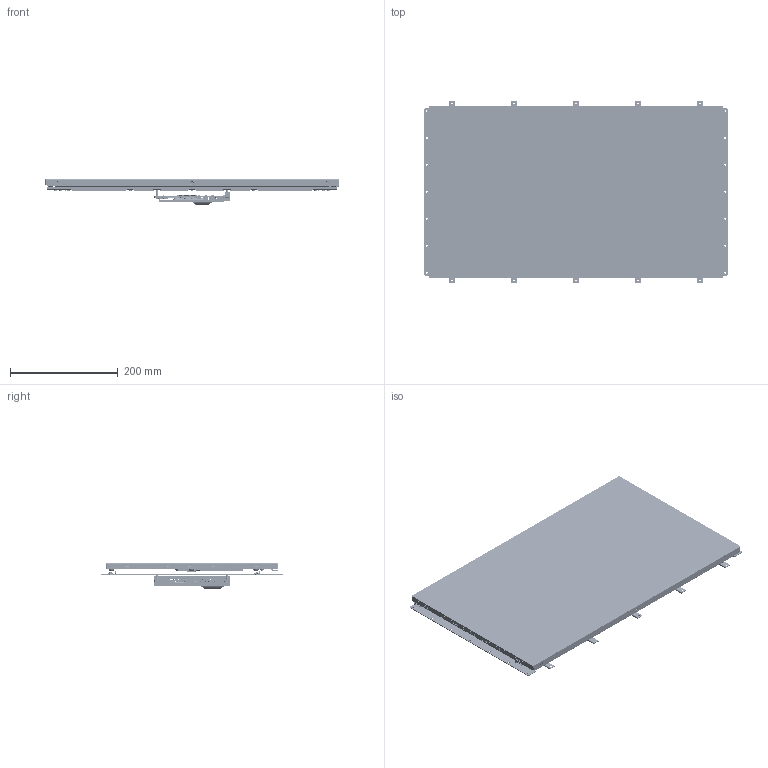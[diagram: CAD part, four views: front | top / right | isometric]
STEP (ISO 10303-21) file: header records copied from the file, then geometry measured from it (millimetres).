
FILE_DESCRIPTION((''),'2;1');
FILE_NAME('00_BCX11_236_ASSY_ASM_ASM','2015-11-02T',('jimmy_tseng'),(''),'CREO PARAMETRIC BY PTC INC, 2015080','CREO PARAMETRIC BY PTC INC, 2015080','');
FILE_SCHEMA(('CONFIG_CONTROL_DESIGN'));
Products named in the file (535): M236HJK-L5BMSBR-424_1; M236HJK-L5BMSBR-423_1; M236HJK-L5BMSBR-422_1; M236HJK-L5BMSBR-421_1; M236HJK-L5BMSBR-420_2; M236HJK-L5BMSBR-419_2; M236HJK-L5BMSBR-418_2; M236HJK-L5BMSBR-417_1; M236HJK-L5BMSBR-416_1; M236HJK-L5BMSBR-415_1; M236HJK-L5BMSBR-414_1; M236HJK-L5BMSBR-413_1; M236HJK-L5BMSBR-412_1; M236HJK-L5BMSBR-411_1; M236HJK-L5BMSBR-410_1; M236HJK-L5BMSBR-409_1; M236HJK-L5BMSBR-408_1; M236HJK-L5BMSBR-407_1; M236HJK-L5BMSBR-406_1; M236HJK-L5BMSBR-405_1; M236HJK-L5BMSBR-404_1; M236HJK-L5BMSBR-403_1; M236HJK-L5BMSBR-402_1; M236HJK-L5BMSBR-401_1; M236HJK-L5BMSBR-400_1; M236HJK-L5BMSBR-399_1; M236HJK-L5BMSBR-398_1; M236HJK-L5BMSBR-397_1; M236HJK-L5BMSBR-396_1; M236HJK-L5BMSBR-395_1; M236HJK-L5BMSBR-394_1; M236HJK-L5BMSBR-393_1; M236HJK-L5BMSBR-392_1; M236HJK-L5BMSBR-391_1; M236HJK-L5BMSBR-390_2; M236HJK-L5BMSBR-389_1; M236HJK-L5BMSBR-388_1; M236HJK-L5BMSBR-387_1; M236HJK-L5BMSBR-386_1; M236HJK-L5BMSBR-385_1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
Assembly tree (592 placements, depth 7):
  00_BCX11_236_ASSY_ASM_ASM
    BCX11_236_ASSY_ASM_15_ASM
      BCX11_23_6_ASSY_ASM_9_ASM
        23_6_FRAME_ASSY_ASM_9_ASM
          M236HJK-L5B_ASSY_ASM_2_ASM
            M236HJK-L5BMSBR-424_1
            M236HJK-L5BMSBR-423_1
            M236HJK-L5BMSBR-422_1
            M236HJK-L5BMSBR-421_1
            M236HJK-L5BMSBR-420_2
            M236HJK-L5BMSBR-419_2
            M236HJK-L5BMSBR-418_2
            M236HJK-L5BMSBR-417_1
            M236HJK-L5BMSBR-416_1
            M236HJK-L5BMSBR-415_1
            M236HJK-L5BMSBR-414_1
            M236HJK-L5BMSBR-413_1
            M236HJK-L5BMSBR-412_1
            M236HJK-L5BMSBR-411_1
            M236HJK-L5BMSBR-410_1
            M236HJK-L5BMSBR-409_1
            M236HJK-L5BMSBR-408_1
            M236HJK-L5BMSBR-407_1
            M236HJK-L5BMSBR-406_1
            M236HJK-L5BMSBR-405_1
            M236HJK-L5BMSBR-404_1
            M236HJK-L5BMSBR-403_1
            M236HJK-L5BMSBR-402_1
            M236HJK-L5BMSBR-401_1
            M236HJK-L5BMSBR-400_1
            M236HJK-L5BMSBR-399_1
            M236HJK-L5BMSBR-398_1
            M236HJK-L5BMSBR-397_1
            M236HJK-L5BMSBR-396_1
            M236HJK-L5BMSBR-395_1
            M236HJK-L5BMSBR-394_1
            M236HJK-L5BMSBR-393_1
            M236HJK-L5BMSBR-392_1
            M236HJK-L5BMSBR-391_1
            M236HJK-L5BMSBR-390_2
            M236HJK-L5BMSBR-389_1
            M236HJK-L5BMSBR-388_1
            M236HJK-L5BMSBR-387_1
            M236HJK-L5BMSBR-386_1
            M236HJK-L5BMSBR-385_1
            M236HJK-L5BMSBR-384_1
            M236HJK-L5BMSBR-383_1
            M236HJK-L5BMSBR-382_1
            M236HJK-L5BMSBR-381_1
            M236HJK-L5BMSBR-380_1
            M236HJK-L5BMSBR-379_1
            M236HJK-L5BMSBR-378_1
            M236HJK-L5BMSBR-377_1
            M236HJK-L5BMSBR-376_1
            M236HJK-L5BMSBR-375_1
            M236HJK-L5BMSBR-374_1
            M236HJK-L5BMSBR-373_1
            M236HJK-L5BMSBR-372_1
            M236HJK-L5BMSBR-371_1
            M236HJK-L5BMSBR-370_1
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Bounding box: 562.68 x 336.9 x 47.49 mm (x, y, z)
Volume: 619656.6 mm3; surface area: 1775235.1 mm2
Topology: 585 solids, 680 shells, 50975 faces, 147232 edges, 97080 vertices
Faces by surface type: plane 34856, cylinder 14096, bspline 1163, torus 503, cone 294, sphere 46, extrusion 17
Entity records: 1508126 total; most frequent: CARTESIAN_POINT 322741, ORIENTED_EDGE 254576, DIRECTION 237787, EDGE_CURVE 127292, VECTOR 96169, LINE 96152, VERTEX_POINT 84095, AXIS2_PLACEMENT_3D 70809
